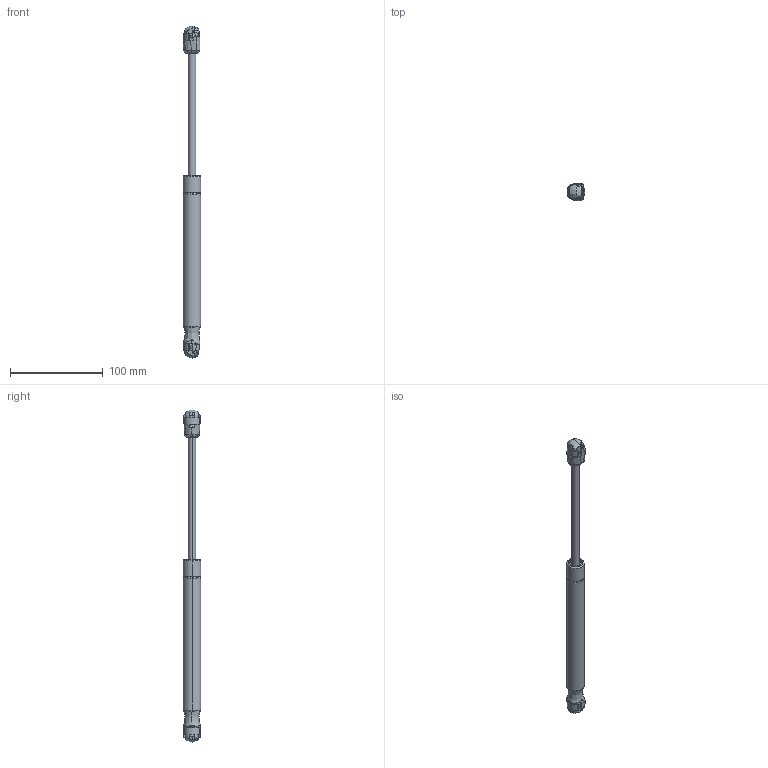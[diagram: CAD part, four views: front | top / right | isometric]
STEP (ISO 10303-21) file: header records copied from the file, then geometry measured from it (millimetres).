
FILE_DESCRIPTION (( 'STEP AP214' ), '1' );
FILE_NAME ('GS08-0475PE10.STEP', '2011-03-23T19:48:22', ( 'user' ), ( '' ), 'SwSTEP 2.0', 'SolidWorks 2011', '' );
FILE_SCHEMA (( 'AUTOMOTIVE_DESIGN' ));
Length unit declared in the file: millimetre
Products named in the file (10): 7175NH_B-SOCKET_FLARED1; 7175NH_B-SOCKET_FLARED2-2; 7175NH_B-SOCKET_FLARED1-2; 4098DY_B-SOCKETa; 4098DY_B-SOCKET2-4; 4098DY_B-SOCKET1-4; GS08-0475PE10-NC.SLDPRT; GS08-0475PE10-SHAFT; GS08-0475PE10-TUBE; GS08-0475PE10
Assembly tree (9 placements, depth 3):
  GS08-0475PE10
    GS08-0475PE10-NC.SLDPRT
      GS08-0475PE10-TUBE
      GS08-0475PE10-SHAFT
    7175NH_B-SOCKET_FLARED1
      7175NH_B-SOCKET_FLARED1-2
      7175NH_B-SOCKET_FLARED2-2
    4098DY_B-SOCKETa
      4098DY_B-SOCKET2-4
      4098DY_B-SOCKET1-4
Bounding box: 19.05 x 19 x 358.5 mm (x, y, z)
Volume: 56332.7 mm3; surface area: 24130.5 mm2
Topology: 6 solids, 6 shells, 403 faces, 1085 edges, 683 vertices
Faces by surface type: bspline 140, plane 119, cylinder 118, cone 18, torus 8
Entity records: 18249 total; most frequent: CARTESIAN_POINT 7604, ORIENTED_EDGE 2152, DIRECTION 1574, EDGE_CURVE 1076, VERTEX_POINT 682, AXIS2_PLACEMENT_3D 596, EDGE_LOOP 408, ADVANCED_FACE 403
